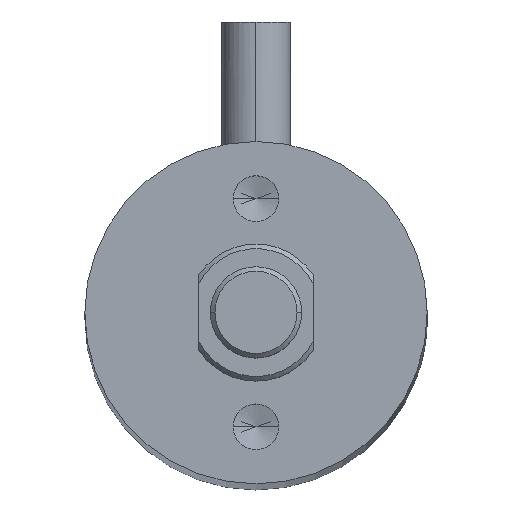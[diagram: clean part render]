
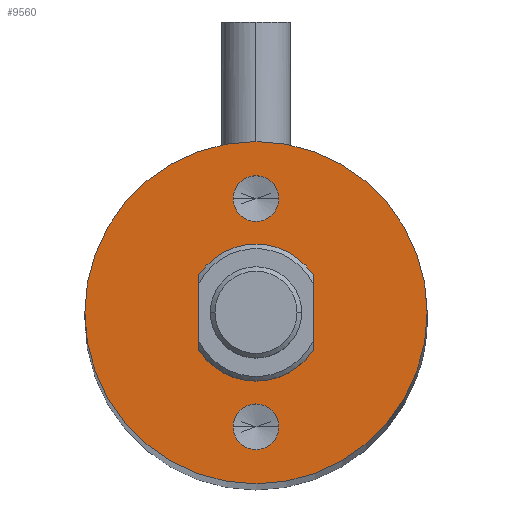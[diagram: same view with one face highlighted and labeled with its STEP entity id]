
A CAD part, top view. The second image highlights one B-rep face of the part: STEP entity #9560.
In plain terms, the highlighted planar face has unit normal (0, 0, 1).
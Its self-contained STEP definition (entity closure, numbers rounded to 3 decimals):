
#1270 = DIRECTION ( 'NONE',  ( 0., 1., 0. ) ) ;
#1601 = VERTEX_POINT ( 'NONE', #47526 ) ;
#2623 = AXIS2_PLACEMENT_3D ( 'NONE', #7776, #15864, #32329 ) ;
#3305 = DIRECTION ( 'NONE',  ( 1., 0., 0. ) ) ;
#3958 = CIRCLE ( 'NONE', #2623, 1. ) ;
#4363 = ORIENTED_EDGE ( 'NONE', *, *, #48136, .T. ) ;
#6968 = AXIS2_PLACEMENT_3D ( 'NONE', #17152, #33819, #45480 ) ;
#7218 = AXIS2_PLACEMENT_3D ( 'NONE', #28397, #52275, #28064 ) ;
#7568 = PLANE ( 'NONE',  #7218 ) ;
#7776 = CARTESIAN_POINT ( 'NONE',  ( 0., 5., 154.6 ) ) ;
#9560 = ADVANCED_FACE ( 'NONE', ( #45531, #13245, #48694, #32255 ), #7568, .T. ) ;
#10702 = CARTESIAN_POINT ( 'NONE',  ( 0., -5., 154.6 ) ) ;
#11198 = VERTEX_POINT ( 'NONE', #41695 ) ;
#11282 = CARTESIAN_POINT ( 'NONE',  ( 0., -5., 154.6 ) ) ;
#11630 = AXIS2_PLACEMENT_3D ( 'NONE', #35148, #14612, #27181 ) ;
#12308 = DIRECTION ( 'NONE',  ( 0., 0., 1. ) ) ;
#13130 = VERTEX_POINT ( 'NONE', #52079 ) ;
#13245 = FACE_OUTER_BOUND ( 'NONE', #19096, .T. ) ;
#13503 = DIRECTION ( 'NONE',  ( 0., -1., 0. ) ) ;
#14612 = DIRECTION ( 'NONE',  ( 0., 0., 1. ) ) ;
#14884 = EDGE_CURVE ( 'NONE', #13130, #29239, #19473, .T. ) ;
#15780 = AXIS2_PLACEMENT_3D ( 'NONE', #45836, #49366, #25150 ) ;
#15864 = DIRECTION ( 'NONE',  ( 0., 0., 1. ) ) ;
#16180 = DIRECTION ( 'NONE',  ( 1., 0., 0. ) ) ;
#17152 = CARTESIAN_POINT ( 'NONE',  ( 0., 0., 154.6 ) ) ;
#17478 = EDGE_LOOP ( 'NONE', ( #36209, #39048 ) ) ;
#18344 = VERTEX_POINT ( 'NONE', #28585 ) ;
#18535 = CIRCLE ( 'NONE', #15780, 3. ) ;
#19096 = EDGE_LOOP ( 'NONE', ( #28209, #37619 ) ) ;
#19451 = DIRECTION ( 'NONE',  ( 1., 0., 0. ) ) ;
#19473 = CIRCLE ( 'NONE', #11630, 3. ) ;
#20410 = VERTEX_POINT ( 'NONE', #51969 ) ;
#21400 = CARTESIAN_POINT ( 'NONE',  ( -2.5, -6.39, 154.6 ) ) ;
#21863 = EDGE_CURVE ( 'NONE', #45777, #25570, #46149, .T. ) ;
#22078 = CARTESIAN_POINT ( 'NONE',  ( 2.5, 1.658, 154.6 ) ) ;
#23369 = EDGE_CURVE ( 'NONE', #34299, #18344, #18535, .T. ) ;
#23730 = ORIENTED_EDGE ( 'NONE', *, *, #28315, .F. ) ;
#23853 = CARTESIAN_POINT ( 'NONE',  ( -7.5, 0., 154.6 ) ) ;
#23953 = EDGE_CURVE ( 'NONE', #1601, #20410, #50220, .T. ) ;
#24148 = EDGE_CURVE ( 'NONE', #11198, #42312, #31280, .T. ) ;
#25150 = DIRECTION ( 'NONE',  ( 1., 0., 0. ) ) ;
#25570 = VERTEX_POINT ( 'NONE', #23853 ) ;
#26074 = LINE ( 'NONE', #49592, #42525 ) ;
#27181 = DIRECTION ( 'NONE',  ( 1., 0., 0. ) ) ;
#28064 = DIRECTION ( 'NONE',  ( 1., 0., 0. ) ) ;
#28209 = ORIENTED_EDGE ( 'NONE', *, *, #43325, .T. ) ;
#28315 = EDGE_CURVE ( 'NONE', #42312, #11198, #3958, .T. ) ;
#28397 = CARTESIAN_POINT ( 'NONE',  ( 0., 0., 154.6 ) ) ;
#28585 = CARTESIAN_POINT ( 'NONE',  ( -2.5, 1.658, 154.6 ) ) ;
#29239 = VERTEX_POINT ( 'NONE', #49244 ) ;
#29328 = EDGE_CURVE ( 'NONE', #34299, #29239, #26074, .T. ) ;
#30934 = ORIENTED_EDGE ( 'NONE', *, *, #23369, .F. ) ;
#31011 = CARTESIAN_POINT ( 'NONE',  ( 0., 0., 154.6 ) ) ;
#31280 = CIRCLE ( 'NONE', #37476, 1. ) ;
#31688 = ORIENTED_EDGE ( 'NONE', *, *, #14884, .F. ) ;
#32255 = FACE_BOUND ( 'NONE', #36436, .T. ) ;
#32289 = CARTESIAN_POINT ( 'NONE',  ( 7.5, 0., 154.6 ) ) ;
#32329 = DIRECTION ( 'NONE',  ( 1., 0., 0. ) ) ;
#33819 = DIRECTION ( 'NONE',  ( 0., 0., 1. ) ) ;
#34299 = VERTEX_POINT ( 'NONE', #22078 ) ;
#34906 = AXIS2_PLACEMENT_3D ( 'NONE', #31011, #39500, #19451 ) ;
#35148 = CARTESIAN_POINT ( 'NONE',  ( 0., 0., 154.6 ) ) ;
#35550 = EDGE_CURVE ( 'NONE', #20410, #1601, #48237, .T. ) ;
#36209 = ORIENTED_EDGE ( 'NONE', *, *, #23953, .F. ) ;
#36381 = EDGE_LOOP ( 'NONE', ( #50812, #31688, #4363, #30934 ) ) ;
#36436 = EDGE_LOOP ( 'NONE', ( #23730, #47832 ) ) ;
#37476 = AXIS2_PLACEMENT_3D ( 'NONE', #40446, #12308, #16180 ) ;
#37619 = ORIENTED_EDGE ( 'NONE', *, *, #21863, .T. ) ;
#38555 = VECTOR ( 'NONE', #1270, 1000. ) ;
#38564 = AXIS2_PLACEMENT_3D ( 'NONE', #10702, #50830, #46408 ) ;
#39048 = ORIENTED_EDGE ( 'NONE', *, *, #35550, .F. ) ;
#39271 = CIRCLE ( 'NONE', #34906, 7.5 ) ;
#39500 = DIRECTION ( 'NONE',  ( 0., 0., 1. ) ) ;
#40446 = CARTESIAN_POINT ( 'NONE',  ( 0., 5., 154.6 ) ) ;
#41369 = CARTESIAN_POINT ( 'NONE',  ( 1., 5., 154.6 ) ) ;
#41695 = CARTESIAN_POINT ( 'NONE',  ( -1., 5., 154.6 ) ) ;
#42312 = VERTEX_POINT ( 'NONE', #41369 ) ;
#42525 = VECTOR ( 'NONE', #13503, 1000. ) ;
#43325 = EDGE_CURVE ( 'NONE', #25570, #45777, #39271, .T. ) ;
#45480 = DIRECTION ( 'NONE',  ( 1., 0., 0. ) ) ;
#45531 = FACE_BOUND ( 'NONE', #36381, .T. ) ;
#45777 = VERTEX_POINT ( 'NONE', #32289 ) ;
#45836 = CARTESIAN_POINT ( 'NONE',  ( 0., 0., 154.6 ) ) ;
#46149 = CIRCLE ( 'NONE', #6968, 7.5 ) ;
#46408 = DIRECTION ( 'NONE',  ( 1., 0., 0. ) ) ;
#47526 = CARTESIAN_POINT ( 'NONE',  ( 1., -5., 154.6 ) ) ;
#47648 = AXIS2_PLACEMENT_3D ( 'NONE', #11282, #51246, #3305 ) ;
#47832 = ORIENTED_EDGE ( 'NONE', *, *, #24148, .F. ) ;
#48136 = EDGE_CURVE ( 'NONE', #13130, #18344, #49269, .T. ) ;
#48237 = CIRCLE ( 'NONE', #38564, 1. ) ;
#48694 = FACE_BOUND ( 'NONE', #17478, .T. ) ;
#49244 = CARTESIAN_POINT ( 'NONE',  ( 2.5, -1.658, 154.6 ) ) ;
#49269 = LINE ( 'NONE', #21400, #38555 ) ;
#49366 = DIRECTION ( 'NONE',  ( 0., 0., 1. ) ) ;
#49592 = CARTESIAN_POINT ( 'NONE',  ( 2.5, -6.39, 154.6 ) ) ;
#50220 = CIRCLE ( 'NONE', #47648, 1. ) ;
#50812 = ORIENTED_EDGE ( 'NONE', *, *, #29328, .T. ) ;
#50830 = DIRECTION ( 'NONE',  ( 0., 0., 1. ) ) ;
#51246 = DIRECTION ( 'NONE',  ( 0., 0., 1. ) ) ;
#51969 = CARTESIAN_POINT ( 'NONE',  ( -1., -5., 154.6 ) ) ;
#52079 = CARTESIAN_POINT ( 'NONE',  ( -2.5, -1.658, 154.6 ) ) ;
#52275 = DIRECTION ( 'NONE',  ( 0., 0., 1. ) ) ;
